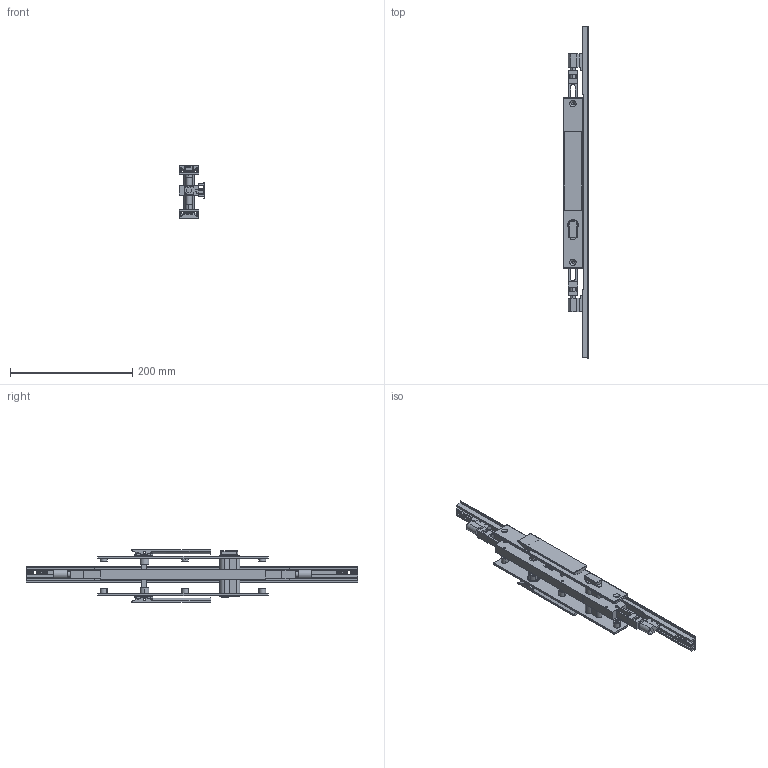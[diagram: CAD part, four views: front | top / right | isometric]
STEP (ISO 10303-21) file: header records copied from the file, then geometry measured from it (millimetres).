
FILE_DESCRIPTION (( 'STEP AP214' ), '1' );
FILE_NAME ('TPL-W-511-L 19July2024.STEP', '2024-12-05T00:04:39', ( '' ), ( '' ), 'SwSTEP 2.0', 'SolidWorks 2023', '' );
FILE_SCHEMA (( 'AUTOMOTIVE_DESIGN' ));
Length unit declared in the file: millimetre
Products named in the file (21): Copy of Handle sub-assembly - simplified^Copy of TPGen2 handle keyed external - simplified_TPL-W-011 19July2024; Copy of Handle sub-assembly - simplified^Copy of TPGen2 handle keyed internal - simplified_TPL-W-011 19July2024; Copy of TPGen2 handle keyed internal - simplified^TPL-W-011 19July2024_Vertical; Bolt.step; Copy of Copy of LKC-531 Lock twinpoint transmission rod wood system^TPL-W-011 19July2024_Standard Range 2891.7mm; Copy of COV-112-A Cover A suit TPLGen2 standard range^TPL-W-011 19July2024_1335mm; Copy of Escutcheon plate keyed internal 280mm - simplified^Copy of TPGen2 handle keyed internal - simplified_TPL-W-011 19July2024; Copy of Adapter CnE - simplfied^TPL-W-011 19July2024_26mm backset; Copy of Adapter DnF - simplfied^TPL-W-011 19July2024_26mm backset; TPLGen2 push rod - simplified_Female thread M10; Copy of COV-112-C Cover C TPLGen2 Lock body^TPL-W-011 19July2024; Copy of COV-112-B Cover B suit TPLGen2 standard range^TPL-W-011 19July2024_2870mm; Copy of TPLGen2 lock body keyed^Copy of TPLGen2 lock body keyed assembly_TPL-W-011 19July2024; Copy of LKC-547 Spindle - simplified^Copy of TPGen2 handle keyed external - simplified_TPL-W-011 19July2024_G - 24mm; Copy of TPGen2 handle keyed external - simplified^TPL-W-011 19July2024_Vertical; Copy of LKC-547 Spindle - simplified^Copy of TPGen2 handle keyed internal - simplified_TPL-W-011 19July2024_E - 19mm; TPL-W-511-L 19July2024; Copy of Escutcheon plate keyed external 280mm - simplified^Copy of TPGen2 handle keyed external - simplified_TPL-W-011 19July2024; Copy of LKC-531 Lock twinpoint transmission rod wood system^TPL-W-011 19July2024_Standard Range (588.7mm); Copy of TPLGen2 lock body keyed assembly^TPL-W-011 19July2024_Bolts extended; Copy of TPL-020 Lock cylinder suit 2.25 inch panel^TPL-W-011 19July2024
Assembly tree (18 placements, depth 3):
  Bolt.step
  Copy of COV-112-A Cover A suit TPLGen2 standard range^TPL-W-011 19July2024_1335mm
  Copy of COV-112-B Cover B suit TPLGen2 standard range^TPL-W-011 19July2024_2870mm
  TPL-W-511-L 19July2024
    Copy of TPLGen2 lock body keyed assembly^TPL-W-011 19July2024_Bolts extended
      Copy of TPLGen2 lock body keyed^Copy of TPLGen2 lock body keyed assembly_TPL-W-011 19July2024
      TPLGen2 push rod - simplified_Female thread M10  x2
    Copy of TPGen2 handle keyed internal - simplified^TPL-W-011 19July2024_Vertical
      Copy of Escutcheon plate keyed internal 280mm - simplified^Copy of TPGen2 handle keyed internal - simplified_TPL-W-011 19July2024
      Copy of Handle sub-assembly - simplified^Copy of TPGen2 handle keyed internal - simplified_TPL-W-011 19July2024
      Copy of LKC-547 Spindle - simplified^Copy of TPGen2 handle keyed internal - simplified_TPL-W-011 19July2024_E - 19mm
    Copy of TPGen2 handle keyed external - simplified^TPL-W-011 19July2024_Vertical
      Copy of Escutcheon plate keyed external 280mm - simplified^Copy of TPGen2 handle keyed external - simplified_TPL-W-011 19July2024
      Copy of Handle sub-assembly - simplified^Copy of TPGen2 handle keyed external - simplified_TPL-W-011 19July2024
      Copy of LKC-547 Spindle - simplified^Copy of TPGen2 handle keyed external - simplified_TPL-W-011 19July2024_G - 24mm
    Copy of TPL-020 Lock cylinder suit 2.25 inch panel^TPL-W-011 19July2024
    Copy of COV-112-C Cover C TPLGen2 Lock body^TPL-W-011 19July2024
    Copy of Copy of LKC-531 Lock twinpoint transmission rod wood system^TPL-W-011 19July2024_Standard Range 2891.7mm
    Copy of LKC-531 Lock twinpoint transmission rod wood system^TPL-W-011 19July2024_Standard Range (588.7mm)
    Copy of Adapter CnE - simplfied^TPL-W-011 19July2024_26mm backset
    Copy of Adapter DnF - simplfied^TPL-W-011 19July2024_26mm backset
Bounding box: 42 x 544 x 86.29 mm (x, y, z)
Volume: 361193.6 mm3; surface area: 177348.5 mm2
Topology: 17 solids, 20 shells, 1091 faces, 2768 edges, 1728 vertices
Faces by surface type: cylinder 453, plane 422, bspline 89, torus 68, cone 35, sphere 24
Entity records: 33411 total; most frequent: CARTESIAN_POINT 7278, DIRECTION 5480, ORIENTED_EDGE 5280, EDGE_CURVE 2640, AXIS2_PLACEMENT_3D 2054, VERTEX_POINT 1668, VECTOR 1372, LINE 1372
